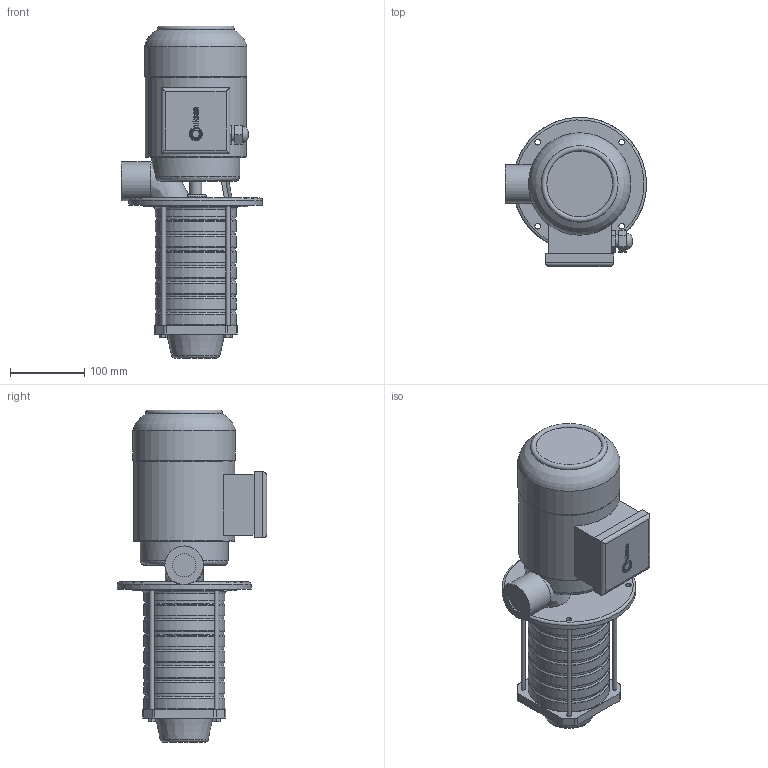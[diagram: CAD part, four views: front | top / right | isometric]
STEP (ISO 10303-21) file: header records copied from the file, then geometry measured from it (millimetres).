
FILE_DESCRIPTION(/* description */ ('Unknown'),/* implementation_level */ '2;1');
FILE_NAME(/* name */ 'hda06',/* time_stamp */ '2025-06-17T14:58:33+03:00',/* author */ ('Unknown'),/* organization */ ('Unknown'),/* preprocessor_version */ 'ST-DEVELOPER v16.7',/* originating_system */ 'DEX',/* authorisation */ $);
FILE_SCHEMA (('AUTOMOTIVE_DESIGN {1 0 10303 214 3 1 1}'));
Length unit declared in the file: millimetre
Products named in the file (1): hda06
Bounding box: 190 x 201 x 447.06 mm (x, y, z)
Volume: 5407821 mm3; surface area: 286353.3 mm2
Topology: 1 solids, 1 shells, 261 faces, 646 edges, 422 vertices
Faces by surface type: plane 108, bspline 66, cylinder 54, torus 24, cone 9
Full cylindrical faces by diameter (mm): 6 x4, 7.5 x4, 16.3 x1, 17 x1, 21.5 x1, 31 x1, 52 x1, 106.5 x7, 109.25 x1, 109.6 x7, 118.6 x1, 136.186 x1, 137.994 x1, 139.6 x1, 180 x1
Entity records: 9702 total; most frequent: CARTESIAN_POINT 4162, ORIENTED_EDGE 1134, DIRECTION 943, EDGE_CURVE 567, VERTEX_POINT 405, EDGE_LOOP 378, FACE_BOUND 378, AXIS2_PLACEMENT_3D 330
